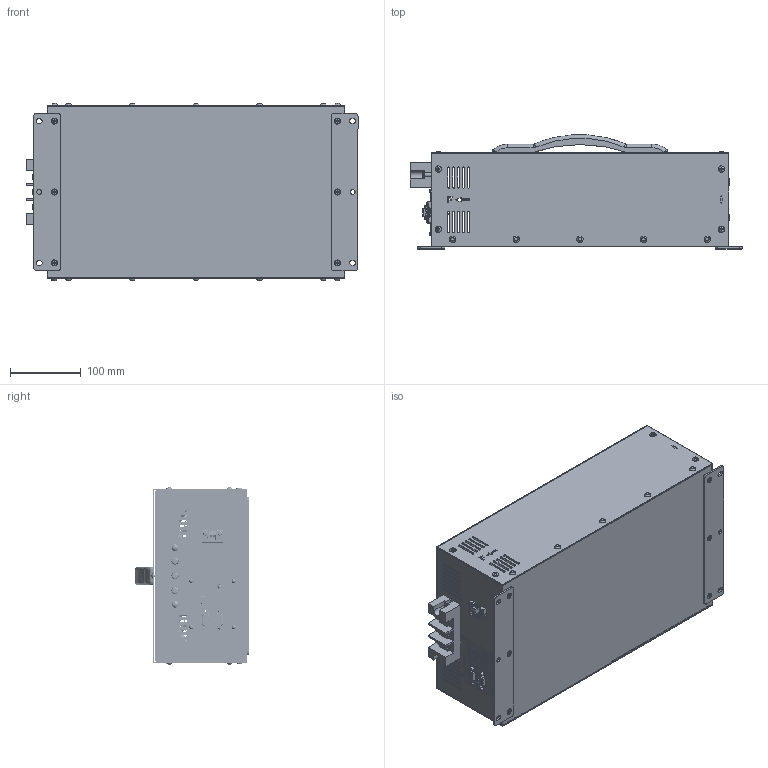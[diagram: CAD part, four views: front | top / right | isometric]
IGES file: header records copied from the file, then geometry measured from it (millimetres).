
Global section: file name: VX3COM_HANDLE1; native system: Autodesk Inventor 2021; preprocessor: unknown; author: eunsol jang; date: 20240723.120832; units: inch
Bounding box: 468 x 160.55 x 250.09 mm (x, y, z)
Volume: 789431.4 mm3; surface area: 917969.8 mm2
Topology: 13 solids, 13 shells, 4512 faces, 13451 edges, 9319 vertices
Faces by surface type: bspline 4512
